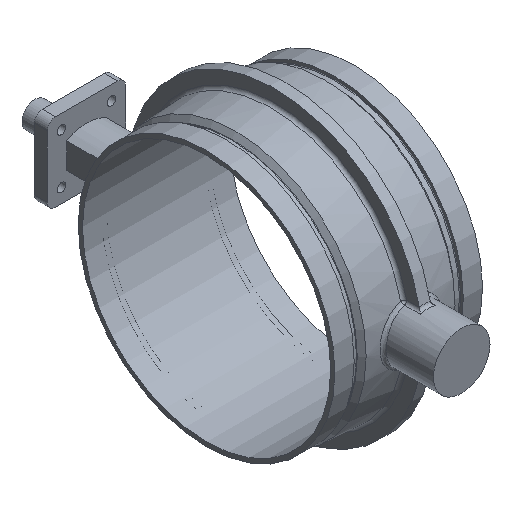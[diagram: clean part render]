
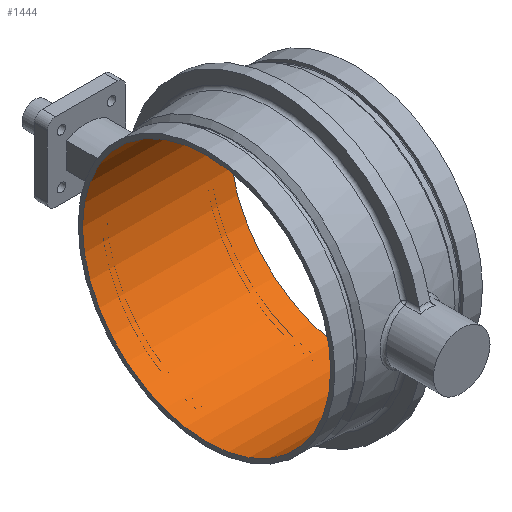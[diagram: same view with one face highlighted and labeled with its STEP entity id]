
A CAD part, isometric view. The second image highlights one B-rep face of the part: STEP entity #1444.
In plain terms, the highlighted cylindrical face has radius 245.618 mm (diameter 491.236 mm), a full revolution.
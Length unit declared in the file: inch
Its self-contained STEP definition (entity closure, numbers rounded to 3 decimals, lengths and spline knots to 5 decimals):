
#172=LINE('',#3030,#226);
#226=VECTOR('',#2022,9.67);
#253=CYLINDRICAL_SURFACE('',#1631,9.67);
#329=FACE_OUTER_BOUND('',#419,.T.);
#419=EDGE_LOOP('',(#1271,#1272,#1273,#1274,#1275,#1276));
#520=CIRCLE('',#1629,9.67);
#521=CIRCLE('',#1630,9.67);
#522=CIRCLE('',#1632,9.67);
#523=CIRCLE('',#1633,9.67);
#656=VERTEX_POINT('',#3024);
#657=VERTEX_POINT('',#3025);
#658=VERTEX_POINT('',#3029);
#659=VERTEX_POINT('',#3031);
#862=EDGE_CURVE('',#656,#657,#520,.T.);
#863=EDGE_CURVE('',#657,#656,#521,.T.);
#864=EDGE_CURVE('',#657,#658,#172,.T.);
#865=EDGE_CURVE('',#659,#658,#522,.T.);
#866=EDGE_CURVE('',#658,#659,#523,.T.);
#1271=ORIENTED_EDGE('',*,*,#862,.T.);
#1272=ORIENTED_EDGE('',*,*,#864,.T.);
#1273=ORIENTED_EDGE('',*,*,#865,.F.);
#1274=ORIENTED_EDGE('',*,*,#866,.F.);
#1275=ORIENTED_EDGE('',*,*,#864,.F.);
#1276=ORIENTED_EDGE('',*,*,#863,.T.);
#1444=ADVANCED_FACE('',(#329),#253,.F.);
#1629=AXIS2_PLACEMENT_3D('',#3026,#2016,#2017);
#1630=AXIS2_PLACEMENT_3D('',#3027,#2018,#2019);
#1631=AXIS2_PLACEMENT_3D('',#3028,#2020,#2021);
#1632=AXIS2_PLACEMENT_3D('',#3032,#2023,#2024);
#1633=AXIS2_PLACEMENT_3D('',#3033,#2025,#2026);
#2016=DIRECTION('center_axis',(1.,0.,0.));
#2017=DIRECTION('ref_axis',(0.,1.,0.));
#2018=DIRECTION('center_axis',(1.,0.,0.));
#2019=DIRECTION('ref_axis',(0.,1.,0.));
#2020=DIRECTION('center_axis',(1.,0.,0.));
#2021=DIRECTION('ref_axis',(0.,1.,0.));
#2022=DIRECTION('',(-1.,0.,0.));
#2023=DIRECTION('center_axis',(1.,0.,0.));
#2024=DIRECTION('ref_axis',(0.,1.,0.));
#2025=DIRECTION('center_axis',(1.,0.,0.));
#2026=DIRECTION('ref_axis',(0.,1.,0.));
#3024=CARTESIAN_POINT('',(5.75,9.67,0.));
#3025=CARTESIAN_POINT('',(5.75,-9.67,0.));
#3026=CARTESIAN_POINT('Origin',(5.75,0.,0.));
#3027=CARTESIAN_POINT('Origin',(5.75,0.,0.));
#3028=CARTESIAN_POINT('Origin',(0.,0.,0.));
#3029=CARTESIAN_POINT('',(-5.75,-9.67,0.));
#3030=CARTESIAN_POINT('',(0.,-9.67,0.));
#3031=CARTESIAN_POINT('',(-5.75,9.67,0.));
#3032=CARTESIAN_POINT('Origin',(-5.75,0.,0.));
#3033=CARTESIAN_POINT('Origin',(-5.75,0.,0.));
